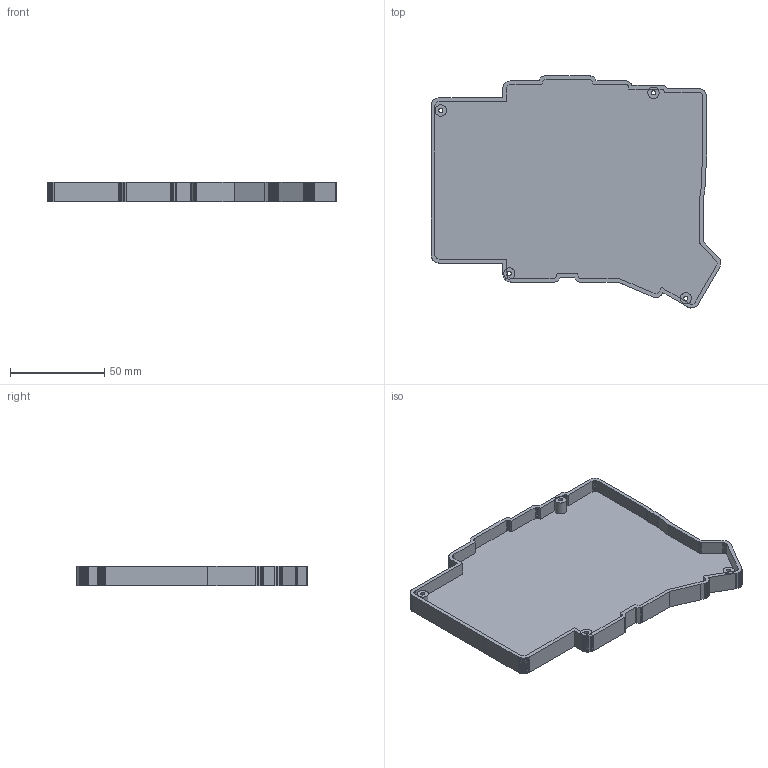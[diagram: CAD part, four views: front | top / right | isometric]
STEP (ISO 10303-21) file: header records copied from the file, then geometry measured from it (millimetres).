
FILE_DESCRIPTION(('Open CASCADE Model'),'2;1');
FILE_NAME('Open CASCADE Shape Model','1979-01-01T00:00:00',('Author'),( 'Open CASCADE'),'Open CASCADE STEP processor 8.0','Open CASCADE 8.0' ,'Unknown');
FILE_SCHEMA(('AUTOMOTIVE_DESIGN { 1 0 10303 214 1 1 1 1 }'));
Length unit declared in the file: millimetre
Products named in the file (1): Open CASCADE STEP translator 8.0 3
Bounding box: 153.76 x 123.03 x 10.1 mm (x, y, z)
Volume: 53343.3 mm3; surface area: 39719.7 mm2
Topology: 1 solids, 1 shells, 418 faces, 1251 edges, 837 vertices
Faces by surface type: plane 407, cylinder 11
Full cylindrical faces by diameter (mm): 2.2 x4, 6 x1
Entity records: 30089 total; most frequent: CARTESIAN_POINT 5021, DIRECTION 4604, LINE 3688, VECTOR 3688, ORIENTED_EDGE 2502, PCURVE 2502, DEFINITIONAL_REPRESENTATION 2502, EDGE_CURVE 1251
